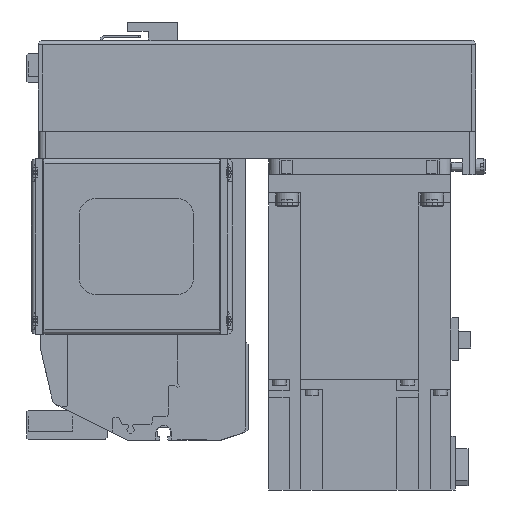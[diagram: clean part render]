
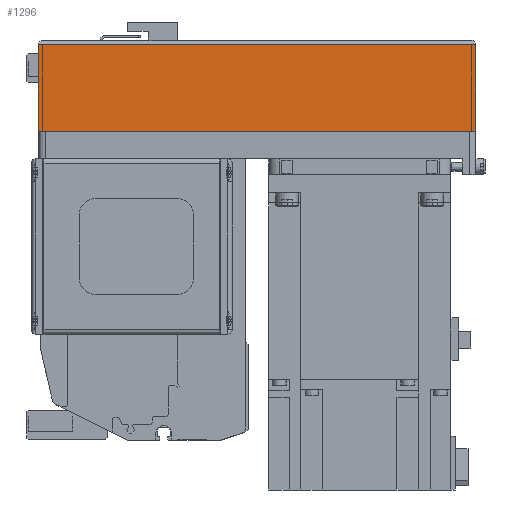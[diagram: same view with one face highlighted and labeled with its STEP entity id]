
A CAD part, left-side view. The second image highlights one B-rep face of the part: STEP entity #1296.
In plain terms, the highlighted planar face has unit normal (-1, 0, 0) as drawn and (0, -1, 0) by its records, which use the part's own axes.
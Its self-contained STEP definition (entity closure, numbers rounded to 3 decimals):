
#1296 = ADVANCED_FACE( '', ( #3605 ), #3606, .T. );
#3605 = FACE_OUTER_BOUND( '', #7347, .T. );
#3606 = PLANE( '', #7348 );
#7347 = EDGE_LOOP( '', ( #11115, #11116, #11117, #11118 ) );
#7348 = AXIS2_PLACEMENT_3D( '', #11119, #11120, #11121 );
#11115 = ORIENTED_EDGE( '', *, *, #20949, .F. );
#11116 = ORIENTED_EDGE( '', *, *, #20950, .F. );
#11117 = ORIENTED_EDGE( '', *, *, #20951, .T. );
#11118 = ORIENTED_EDGE( '', *, *, #20952, .T. );
#11119 = CARTESIAN_POINT( '', ( -192., -40., -12.1 ) );
#11120 = DIRECTION( '', ( 0., -1., 0. ) );
#11121 = DIRECTION( '', ( 0., 0., -1. ) );
#20949 = EDGE_CURVE( '', #24792, #24793, #24794, .T. );
#20950 = EDGE_CURVE( '', #24795, #24792, #24796, .T. );
#20951 = EDGE_CURVE( '', #24795, #24797, #24798, .T. );
#20952 = EDGE_CURVE( '', #24797, #24793, #24799, .T. );
#24792 = VERTEX_POINT( '', #30496 );
#24793 = VERTEX_POINT( '', #30497 );
#24794 = LINE( '', #30498, #30499 );
#24795 = VERTEX_POINT( '', #30500 );
#24796 = LINE( '', #30501, #30502 );
#24797 = VERTEX_POINT( '', #30503 );
#24798 = LINE( '', #30504, #30505 );
#24799 = LINE( '', #30506, #30507 );
#30496 = CARTESIAN_POINT( '', ( 0., -40., -12.1 ) );
#30497 = CARTESIAN_POINT( '', ( 0., -40., -50. ) );
#30498 = CARTESIAN_POINT( '', ( 0., -40., -12.1 ) );
#30499 = VECTOR( '', #39369, 1000. );
#30500 = CARTESIAN_POINT( '', ( -192., -40., -12.1 ) );
#30501 = CARTESIAN_POINT( '', ( -192., -40., -12.1 ) );
#30502 = VECTOR( '', #39370, 1000. );
#30503 = CARTESIAN_POINT( '', ( -192., -40., -50. ) );
#30504 = CARTESIAN_POINT( '', ( -192., -40., -12.1 ) );
#30505 = VECTOR( '', #39371, 1000. );
#30506 = CARTESIAN_POINT( '', ( -192., -40., -50. ) );
#30507 = VECTOR( '', #39372, 1000. );
#39369 = DIRECTION( '', ( 0., 0., -1. ) );
#39370 = DIRECTION( '', ( 1., 0., 0. ) );
#39371 = DIRECTION( '', ( 0., 0., -1. ) );
#39372 = DIRECTION( '', ( 1., 0., 0. ) );
